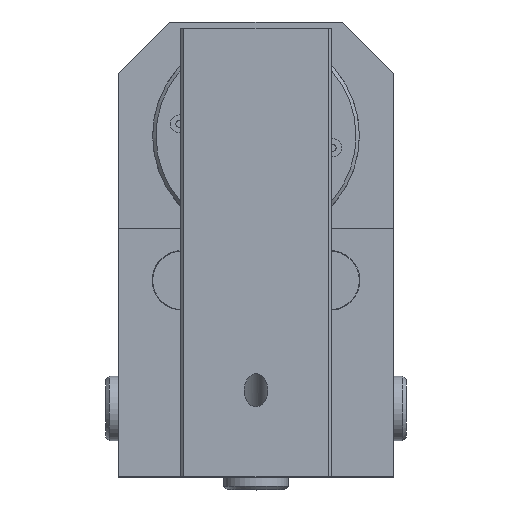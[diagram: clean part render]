
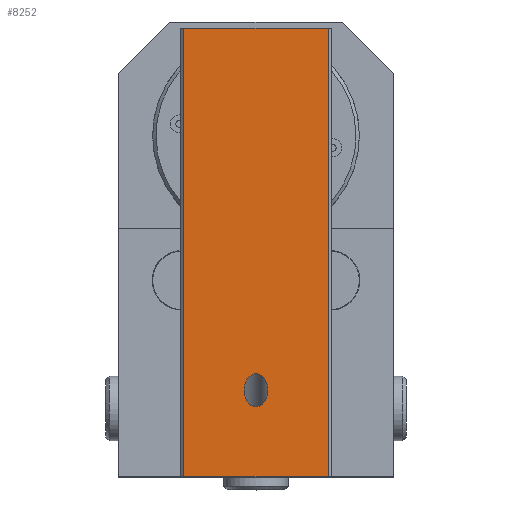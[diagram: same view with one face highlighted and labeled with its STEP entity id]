
A CAD part, top view. The second image highlights one B-rep face of the part: STEP entity #8252.
In plain terms, the highlighted planar face has unit normal (0, 0, 1).
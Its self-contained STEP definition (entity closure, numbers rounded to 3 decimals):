
#189=FACE_BOUND('',#1370,.T.);
#387=PLANE('',#8915);
#880=FACE_OUTER_BOUND('',#1369,.T.);
#1369=EDGE_LOOP('',(#7121,#7122,#7123,#7124));
#1370=EDGE_LOOP('',(#7125,#7126));
#1432=ELLIPSE('',#8891,4.808,3.4);
#1433=ELLIPSE('',#8892,4.808,3.4);
#1989=LINE('',#12228,#2556);
#2268=LINE('',#14345,#2835);
#2280=LINE('',#14368,#2847);
#2284=LINE('',#14375,#2851);
#2556=VECTOR('',#10198,10.);
#2835=VECTOR('',#10649,10.);
#2847=VECTOR('',#10663,10.);
#2851=VECTOR('',#10673,10.);
#3485=VERTEX_POINT('',#12225);
#3486=VERTEX_POINT('',#12227);
#3795=VERTEX_POINT('',#14332);
#3796=VERTEX_POINT('',#14334);
#3798=VERTEX_POINT('',#14343);
#3808=VERTEX_POINT('',#14366);
#4436=EDGE_CURVE('',#3486,#3485,#1989,.T.);
#4896=EDGE_CURVE('',#3796,#3795,#1432,.T.);
#4897=EDGE_CURVE('',#3795,#3796,#1433,.T.);
#4901=EDGE_CURVE('',#3798,#3485,#2268,.T.);
#4913=EDGE_CURVE('',#3798,#3808,#2280,.T.);
#4917=EDGE_CURVE('',#3486,#3808,#2284,.T.);
#7121=ORIENTED_EDGE('',*,*,#4901,.F.);
#7122=ORIENTED_EDGE('',*,*,#4913,.T.);
#7123=ORIENTED_EDGE('',*,*,#4917,.F.);
#7124=ORIENTED_EDGE('',*,*,#4436,.T.);
#7125=ORIENTED_EDGE('',*,*,#4896,.T.);
#7126=ORIENTED_EDGE('',*,*,#4897,.T.);
#8252=ADVANCED_FACE('',(#880,#189),#387,.T.);
#8891=AXIS2_PLACEMENT_3D('',#14335,#10634,#10635);
#8892=AXIS2_PLACEMENT_3D('',#14336,#10636,#10637);
#8915=AXIS2_PLACEMENT_3D('',#14406,#10711,#10712);
#10198=DIRECTION('',(1.,0.,0.));
#10634=DIRECTION('center_axis',(0.,0.,
-1.));
#10635=DIRECTION('ref_axis',(0.,1.,0.));
#10636=DIRECTION('center_axis',(0.,0.,
-1.));
#10637=DIRECTION('ref_axis',(0.,1.,0.));
#10649=DIRECTION('',(0.,-1.,0.));
#10663=DIRECTION('',(-1.,0.,0.));
#10673=DIRECTION('',(0.,1.,0.));
#10711=DIRECTION('center_axis',(0.,0.,
1.));
#10712=DIRECTION('ref_axis',(0.,-1.,0.));
#12225=CARTESIAN_POINT('',(126.395,-60.239,142.5));
#12227=CARTESIAN_POINT('',(84.395,-60.239,142.5));
#12228=CARTESIAN_POINT('',(83.395,-60.239,142.5));
#14332=CARTESIAN_POINT('',(105.395,-40.048,142.5));
#14334=CARTESIAN_POINT('',(105.395,-30.431,142.5));
#14335=CARTESIAN_POINT('Origin',(105.395,-35.239,142.5));
#14336=CARTESIAN_POINT('Origin',(105.395,-35.239,142.5));
#14343=CARTESIAN_POINT('',(126.395,69.761,142.5));
#14345=CARTESIAN_POINT('',(126.395,4.761,142.5));
#14366=CARTESIAN_POINT('',(84.395,69.761,142.5));
#14368=CARTESIAN_POINT('',(83.395,69.761,142.5));
#14375=CARTESIAN_POINT('',(84.395,4.761,142.5));
#14406=CARTESIAN_POINT('Origin',(127.395,4.761,142.5));
